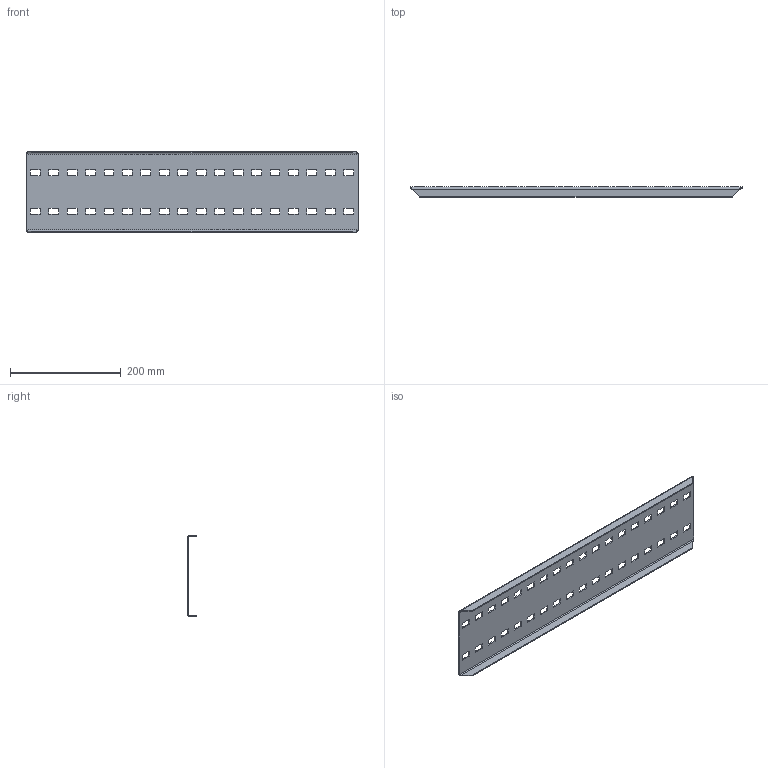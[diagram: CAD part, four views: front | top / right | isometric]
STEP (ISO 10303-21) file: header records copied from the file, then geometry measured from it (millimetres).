
FILE_DESCRIPTION(('Creo Elements/Direct Modeling STEP Export'),'2;1');
FILE_NAME('WPC15-HDG.stp','2016-08-24T11:41:43',(''),(''),'PTC Creo Elements/Direct Modeling STEP processor for AP214 (Solid Model)','PTC Creo Elements/Direct Modeling 19.0C 15-Aug-2015 (C) Parametric Technology GmbH','');
FILE_SCHEMA(('AUTOMOTIVE_DESIGN { 1 0 10303 214 1 1 1 1 }'));
Length unit declared in the file: millimetre
Products named in the file (2): WPC15-HDG
Assembly tree (1 placements, depth 2):
  WPC15-HDG
    WPC15-HDG
Bounding box: 599.4 x 18 x 145 mm (x, y, z)
Volume: 193541.4 mm3; surface area: 200708.8 mm2
Topology: 1 solids, 1 shells, 310 faces, 920 edges, 612 vertices
Faces by surface type: plane 158, cylinder 148, bspline 4
Entity records: 11501 total; most frequent: CARTESIAN_POINT 2716, ORIENTED_EDGE 1840, DIRECTION 1820, EDGE_CURVE 920, VECTOR 612, LINE 612, VERTEX_POINT 612, AXIS2_PLACEMENT_3D 604
